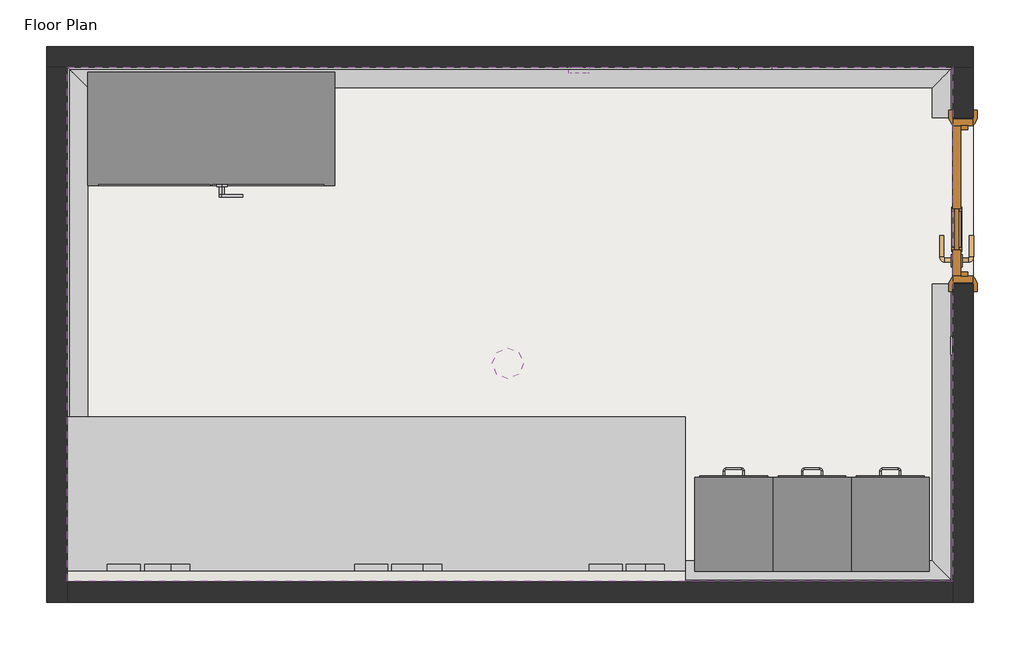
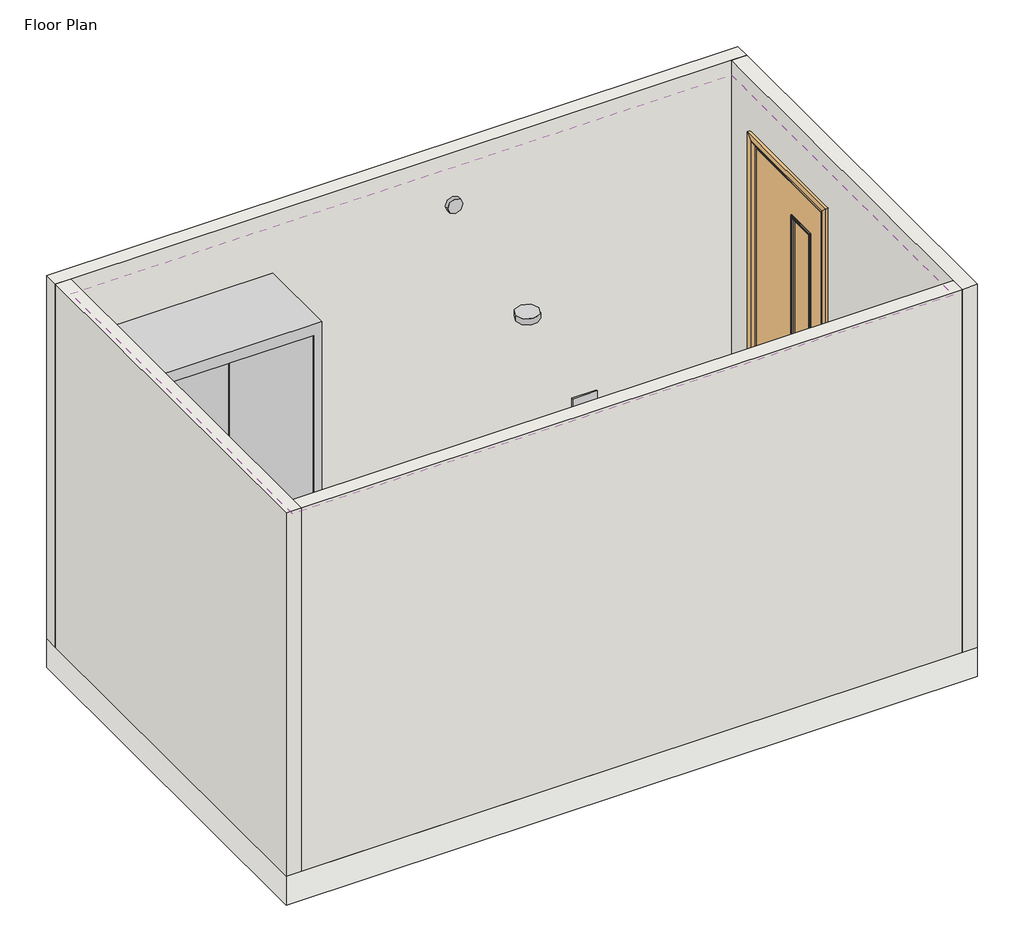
# One storey, incomplete: 17 proxies, 5 furniture elements, 5 walls, 1 covering, 1 door, 1 slab.
"""IFC4 building model written with IfcOpenShell, lengths in millimetres."""

from ifc_helpers import new_model, si_unit, frame, origin, origin_with_axes, place, context, project, spatial, polyline, circle_curve, ellipse_curve, outline, extrude, faceted_brep, transform, mapped, element, save
from ifc_brep_helpers import plane_surface, revolved_surface, advanced_brep
from components import bimhealth_electrical_data_point_v1_type_1_559430e2, bimhealth_electrical_double_socket_v1_type_1_f9b83866, bimhealth_electrical_double_socket_v1_type_1_95ecb0e8, bimhealth_electrical_light_switch_v1_type_1_b5e59f8a, bimhealth_electrical_smoke_detector_v1_bimhealth_electrical_fe9fcb6c, type_1_6de7a62d, doors_intsgl_2_810x2110mm_89a19a68, furniture_afa30520, furniture_380x457x1320mm_2699b43c, furniture_cabinet_storage_1200x550x2100mm_1155e696

model = new_model("IFC4")

# Units and contexts
model_context = context("Model", 3, world=origin())
ifc_project = project(units=[si_unit("LENGTHUNIT", "METRE", prefix="MILLI")], contexts=[model_context])

# Site, building, storey
site = spatial("IfcSite", under=ifc_project)
building = spatial("IfcBuilding", under=site)
storey = spatial("IfcBuildingStorey", under=building, Name="Floor Plan", Elevation=0.0)

# Proxies
placement = place(None, origin())
element("IfcBuildingElementProxy", 1, Name="Wall Sweeps", at=placement, inside=storey, context=model_context, shape_type="AdvancedBrep", body=[
    advanced_brep(
    [(5.0, 695.0, 0.0), (105.0, 795.0, 0.0), (105.0, 795.0, 10.0), (15.0, 705.0, 100.0), (5.0, 695.0, 100.0), (5.0, 3195.0, 0.0), (5.0, 3195.0, 100.0), (15.0, 3185.0, 100.0), (105.0, 3095.0, 10.0), (105.0, 3095.0, 0.0)],
    [
        (0, 1),
        (1, 2),
        (2, 3, ellipse_curve(frame((105.0, 795.0, 100.0), z_axis=(-0.707106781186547, 0.707106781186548, 0.0), x_axis=(0.707106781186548, 0.7071067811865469, 0.0)), 127.2792206, 90.0)),
        (3, 4),
        (4, 0),
        (5, 6),
        (6, 7),
        (7, 8, ellipse_curve(frame((105.0, 3095.0, 100.0), z_axis=(-0.7071067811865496, -0.7071067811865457, 0.0), x_axis=(-0.7071067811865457, 0.7071067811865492, 0.0)), 127.2792206, 90.0)),
        (8, 9),
        (9, 5),
        (4, 6),
        (5, 0),
        (3, 7),
        (2, 8),
        (1, 9),
    ],
    [
        plane_surface(frame((5.0, 695.0, 304.8), z_axis=(0.707106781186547, -0.707106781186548, 0.0), x_axis=(0.707106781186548, 0.707106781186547, 0.0))),
        plane_surface(frame((5.0, 3195.0, 304.8), z_axis=(0.7071067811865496, 0.7071067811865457, 0.0), x_axis=(0.7071067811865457, -0.7071067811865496, 0.0))),
        plane_surface(frame((5.0, 695.0, 100.0), z_axis=(-1.0, 0.0, 0.0), x_axis=(0.0, 1.0, 0.0))),
        plane_surface(frame((15.0, 705.0, 100.0), z_axis=(0.0, 0.0, 1.0), x_axis=(0.0, 1.0, 0.0))),
        revolved_surface(polyline([(195.0, 3185.0, 100.0), (195.0, 705.0, 100.0)]), (105.0, 695.0, 100.0), (0.0, 1.0, 0.0)),
        plane_surface(frame((105.0, 795.0, 0.0), z_axis=(1.0, 0.0, 0.0), x_axis=(0.0, 1.0, 0.0))),
        plane_surface(frame((5.0, 695.0, 0.0), z_axis=(0.0, 0.0, -1.0), x_axis=(0.0, 1.0, 0.0))),
    ],
    [
        (0, [[1, 2, 3, 4, 5]]),
        (1, [[6, 7, 8, 9, 10]]),
        (2, [[-5, 11, -6, 12]]),
        (3, [[-4, 13, -7, -11]]),
        (4, [[-3, 14, -8, -13]]),
        (5, [[-2, 15, -9, -14]]),
        (6, [[-1, -12, -10, -15]]),
    ],
),
])
element("IfcBuildingElementProxy", 2, Name="Wall Sweeps", at=placement, inside=storey, context=model_context, shape_type="AdvancedBrep", body=[
    advanced_brep(
    [(5.0, 3195.0, 0.0), (105.0, 3095.0, 0.0), (105.0, 3095.0, 10.0), (15.0, 3185.0, 100.0), (5.0, 3195.0, 100.0), (4305.0, 3195.0, 0.0), (4305.0, 3195.0, 100.0), (4295.0, 3185.0, 100.0), (4205.0, 3095.0, 10.0), (4205.0, 3095.0, 0.0)],
    [
        (0, 1),
        (1, 2),
        (2, 3, ellipse_curve(frame((105.0, 3095.0, 100.0), z_axis=(0.7071067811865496, 0.7071067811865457, 0.0), x_axis=(0.7071067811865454, -0.7071067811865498, 0.0)), 127.2792206, 90.0)),
        (3, 4),
        (4, 0),
        (5, 6),
        (6, 7),
        (7, 8, ellipse_curve(frame((4205.0, 3095.0, 100.0), z_axis=(-0.7071067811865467, 0.7071067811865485, 0.0), x_axis=(0.7071067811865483, 0.7071067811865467, 0.0)), 127.2792206, 90.0)),
        (8, 9),
        (9, 5),
        (4, 6),
        (5, 0),
        (3, 7),
        (2, 8),
        (1, 9),
    ],
    [
        plane_surface(frame((5.0, 3195.0, 304.8), z_axis=(-0.7071067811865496, -0.7071067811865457, 0.0), x_axis=(0.7071067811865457, -0.7071067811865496, 0.0))),
        plane_surface(frame((4305.0, 3195.0, 304.8), z_axis=(0.7071067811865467, -0.7071067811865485, 0.0), x_axis=(-0.7071067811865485, -0.7071067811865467, 0.0))),
        plane_surface(frame((5.0, 3195.0, 100.0), z_axis=(0.0, 1.0, 0.0), x_axis=(1.0, 0.0, 0.0))),
        plane_surface(frame((15.0, 3185.0, 100.0), z_axis=(0.0, 0.0, 1.0), x_axis=(1.0, 0.0, 0.0))),
        revolved_surface(polyline([(4295.0, 3005.0, 100.0), (15.0, 3005.0, 100.0)]), (5.0, 3095.0, 100.0), (1.0, 0.0, 0.0)),
        plane_surface(frame((105.0, 3095.0, 0.0), z_axis=(0.0, -1.0, 0.0), x_axis=(1.0, 0.0, 0.0))),
        plane_surface(frame((5.0, 3195.0, 0.0), z_axis=(0.0, 0.0, -1.0), x_axis=(1.0, 0.0, 0.0))),
    ],
    [
        (0, [[1, 2, 3, 4, 5]]),
        (1, [[6, 7, 8, 9, 10]]),
        (2, [[-5, 11, -6, 12]]),
        (3, [[-4, 13, -7, -11]]),
        (4, [[-3, 14, -8, -13]]),
        (5, [[-2, 15, -9, -14]]),
        (6, [[-1, -12, -10, -15]]),
    ],
),
])
element("IfcBuildingElementProxy", 3, Name="Wall Sweeps", at=placement, inside=storey, context=model_context, shape_type="AdvancedBrep", body=[
    advanced_brep(
    [(4305.0, 2140.0, 0.0), (4205.0, 2140.0, 0.0), (4205.0, 2140.0, 10.0), (4295.0, 2140.0, 100.0), (4305.0, 2140.0, 100.0), (4305.0, 695.0, 0.0), (4305.0, 695.0, 100.0), (4295.0, 705.0, 100.0), (4205.0, 795.0, 10.0), (4205.0, 795.0, 0.0)],
    [
        (0, 1),
        (1, 2),
        (2, 3, circle_curve(frame((4205.0, 2140.0, 100.0), z_axis=(0.0, -1.0, 0.0), x_axis=(-1.0, 0.0, 0.0)), 90.0)),
        (3, 4),
        (4, 0),
        (5, 6),
        (6, 7),
        (7, 8, ellipse_curve(frame((4205.0, 795.0, 100.0), z_axis=(0.7071067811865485, 0.7071067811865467, 0.0), x_axis=(0.7071067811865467, -0.7071067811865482, 0.0)), 127.2792206, 90.0)),
        (8, 9),
        (9, 5),
        (4, 6),
        (5, 0),
        (3, 7),
        (2, 8),
        (1, 9),
    ],
    [
        plane_surface(frame((4204.5012438, 2140.0, 0.0), z_axis=(0.0, 1.0, 0.0), x_axis=(0.0, 0.0, -1.0))),
        plane_surface(frame((4305.0, 695.0, 304.8), z_axis=(-0.7071067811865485, -0.7071067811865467, 0.0), x_axis=(-0.7071067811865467, 0.7071067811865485, 0.0))),
        plane_surface(frame((4305.0, 2140.0, 100.0), z_axis=(1.0, 0.0, 0.0), x_axis=(0.0, -1.0, 0.0))),
        plane_surface(frame((4295.0, 2140.0, 100.0), z_axis=(0.0, 0.0, 1.0), x_axis=(0.0, -1.0, 0.0))),
        revolved_surface(polyline([(4115.0, 705.0, 100.0), (4115.0, 2140.0, 100.0)]), (4205.0, 2140.0, 100.0), (0.0, -1.0, 0.0)),
        plane_surface(frame((4205.0, 2140.0, 0.0), z_axis=(-1.0, 0.0, 0.0), x_axis=(0.0, -1.0, 0.0))),
        plane_surface(frame((4305.0, 2140.0, 0.0), z_axis=(0.0, 0.0, -1.0), x_axis=(0.0, -1.0, 0.0))),
    ],
    [
        (0, [[1, 2, 3, 4, 5]]),
        (1, [[6, 7, 8, 9, 10]]),
        (2, [[-5, 11, -6, 12]]),
        (3, [[-4, 13, -7, -11]]),
        (4, [[-3, 14, -8, -13]]),
        (5, [[-2, 15, -9, -14]]),
        (6, [[-1, -12, -10, -15]]),
    ],
),
    advanced_brep(
    [(4305.0, 3195.0, 0.0), (4205.0, 3095.0, 0.0), (4205.0, 3095.0, 10.0), (4295.0, 3185.0, 100.0), (4305.0, 3195.0, 100.0), (4305.0, 2950.0, 0.0), (4305.0, 2950.0, 100.0), (4295.0, 2950.0, 100.0), (4205.0, 2950.0, 10.0), (4205.0, 2950.0, 0.0)],
    [
        (0, 1),
        (1, 2),
        (2, 3, ellipse_curve(frame((4205.0, 3095.0, 100.0), z_axis=(0.7071067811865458, -0.7071067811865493, 0.0), x_axis=(-0.7071067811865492, -0.7071067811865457, 0.0)), 127.2792206, 90.0)),
        (3, 4),
        (4, 0),
        (5, 6),
        (6, 7),
        (7, 8, circle_curve(frame((4205.0, 2950.0, 100.0), z_axis=(0.0, 1.0, 0.0), x_axis=(-1.0, 0.0, 0.0)), 90.0)),
        (8, 9),
        (9, 5),
        (4, 6),
        (5, 0),
        (3, 7),
        (2, 8),
        (1, 9),
    ],
    [
        plane_surface(frame((4305.0, 3195.0, 304.8), z_axis=(-0.7071067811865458, 0.7071067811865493, 0.0), x_axis=(-0.7071067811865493, -0.7071067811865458, 0.0))),
        plane_surface(frame((4204.5012438, 2950.0, 0.0), z_axis=(0.0, -1.0, 0.0), x_axis=(0.0, 0.0, -1.0))),
        plane_surface(frame((4305.0, 3195.0, 100.0), z_axis=(1.0, 0.0, 0.0), x_axis=(0.0, -1.0, 0.0))),
        plane_surface(frame((4295.0, 3185.0, 100.0), z_axis=(0.0, 0.0, 1.0), x_axis=(0.0, -1.0, 0.0))),
        revolved_surface(polyline([(4115.0, 2950.0, 100.0), (4115.0, 3185.0, 100.0)]), (4205.0, 3195.0, 100.0), (0.0, -1.0, 0.0)),
        plane_surface(frame((4205.0, 3095.0, 0.0), z_axis=(-1.0, 0.0, 0.0), x_axis=(0.0, -1.0, 0.0))),
        plane_surface(frame((4305.0, 3195.0, 0.0), z_axis=(0.0, 0.0, -1.0), x_axis=(0.0, -1.0, 0.0))),
    ],
    [
        (0, [[1, 2, 3, 4, 5]]),
        (1, [[6, 7, 8, 9, 10]]),
        (2, [[-5, 11, -6, 12]]),
        (3, [[-4, 13, -7, -11]]),
        (4, [[-3, 14, -8, -13]]),
        (5, [[-2, 15, -9, -14]]),
        (6, [[-1, -12, -10, -15]]),
    ],
),
])
element("IfcBuildingElementProxy", 4, Name="Wall Sweeps", at=placement, inside=storey, context=model_context, shape_type="AdvancedBrep", body=[
    advanced_brep(
    [(4305.0, 695.0, 0.0), (4205.0, 795.0, 0.0), (4205.0, 795.0, 10.0), (4295.0, 705.0, 100.0), (4305.0, 695.0, 100.0), (5.0, 695.0, 0.0), (5.0, 695.0, 100.0), (15.0, 705.0, 100.0), (105.0, 795.0, 10.0), (105.0, 795.0, 0.0)],
    [
        (0, 1),
        (1, 2),
        (2, 3, ellipse_curve(frame((4205.0, 795.0, 100.0), z_axis=(-0.7071067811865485, -0.7071067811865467, 0.0), x_axis=(-0.7071067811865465, 0.7071067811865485, 0.0)), 127.2792206, 90.0)),
        (3, 4),
        (4, 0),
        (5, 6),
        (6, 7),
        (7, 8, ellipse_curve(frame((105.0, 795.0, 100.0), z_axis=(0.707106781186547, -0.707106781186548, 0.0), x_axis=(-0.7071067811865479, -0.707106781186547, 0.0)), 127.2792206, 90.0)),
        (8, 9),
        (9, 5),
        (4, 6),
        (5, 0),
        (3, 7),
        (2, 8),
        (1, 9),
    ],
    [
        plane_surface(frame((4305.0, 695.0, 304.8), z_axis=(0.7071067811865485, 0.7071067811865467, 0.0), x_axis=(-0.7071067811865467, 0.7071067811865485, 0.0))),
        plane_surface(frame((5.0, 695.0, 304.8), z_axis=(-0.707106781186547, 0.707106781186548, 0.0), x_axis=(0.707106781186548, 0.707106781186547, 0.0))),
        plane_surface(frame((4305.0, 695.0, 100.0), z_axis=(0.0, -1.0, 0.0), x_axis=(-1.0, 0.0, 0.0))),
        plane_surface(frame((4295.0, 705.0, 100.0), z_axis=(0.0, 0.0, 1.0), x_axis=(-1.0, 0.0, 0.0))),
        revolved_surface(polyline([(15.0, 885.0, 100.0), (4295.0, 885.0, 100.0)]), (4305.0, 795.0, 100.0), (-1.0, 0.0, 0.0)),
        plane_surface(frame((4205.0, 795.0, 0.0), z_axis=(0.0, 1.0, 0.0), x_axis=(-1.0, 0.0, 0.0))),
        plane_surface(frame((4305.0, 695.0, 0.0), z_axis=(0.0, 0.0, -1.0), x_axis=(-1.0, 0.0, 0.0))),
    ],
    [
        (0, [[1, 2, 3, 4, 5]]),
        (1, [[6, 7, 8, 9, 10]]),
        (2, [[-5, 11, -6, 12]]),
        (3, [[-4, 13, -7, -11]]),
        (4, [[-3, 14, -8, -13]]),
        (5, [[-2, 15, -9, -14]]),
        (6, [[-1, -12, -10, -15]]),
    ],
),
])
bimhealth_electrical_data_point_v1_type_1_shape = bimhealth_electrical_data_point_v1_type_1_559430e2(model_context)
element("IfcBuildingElementProxy", 5, Name="BIMHealth-Electrical-Data_Point-v1 : Type 1", ObjectType="BIMHealth-Electrical-Data_Point-v1 : Type 1", at=placement, inside=storey, context=model_context, shape_type="MappedRepresentation", body=[
    mapped(bimhealth_electrical_data_point_v1_type_1_shape, transform((385.0, 720.0, 0.0), x_axis=(1.0, 0.0, 0.0), y_axis=(0.0, 1.0, 0.0), z_axis=(0.0, 0.0, 1.0))),
])
element("IfcBuildingElementProxy", 6, Name="BIMHealth-Electrical-Data_Point-v1 : Type 1", ObjectType="BIMHealth-Electrical-Data_Point-v1 : Type 1", at=placement, inside=storey, context=model_context, shape_type="MappedRepresentation", body=[
    mapped(bimhealth_electrical_data_point_v1_type_1_shape, transform((1610.0, 720.0, 0.0), x_axis=(1.0, 0.0, 0.0), y_axis=(0.0, 1.0, 0.0), z_axis=(0.0, 0.0, 1.0))),
])
element("IfcBuildingElementProxy", 7, Name="BIMHealth-Electrical-Data_Point-v1 : Type 1", ObjectType="BIMHealth-Electrical-Data_Point-v1 : Type 1", at=placement, inside=storey, context=model_context, shape_type="MappedRepresentation", body=[
    mapped(bimhealth_electrical_data_point_v1_type_1_shape, transform((2690.0, 720.0, 0.0), x_axis=(1.0, 0.0, 0.0), y_axis=(0.0, 1.0, 0.0), z_axis=(0.0, 0.0, 1.0))),
])
bimhealth_electrical_double_socket_v1_type_1_shape = bimhealth_electrical_double_socket_v1_type_1_f9b83866(model_context)
element("IfcBuildingElementProxy", 8, Name="BIMHealth-Electrical-Double_Socket-v1 : Type 1", ObjectType="BIMHealth-Electrical-Double_Socket-v1 : Type 1", at=placement, inside=storey, context=model_context, shape_type="MappedRepresentation", body=[
    mapped(bimhealth_electrical_double_socket_v1_type_1_shape, transform((3550.0, 3245.0, 0.0), x_axis=(-1.0, 0.0, 0.0), y_axis=(0.0, -1.0, 0.0), z_axis=(0.0, 0.0, 1.0))),
])
bimhealth_electrical_double_socket_v1_type_1_2_shape = bimhealth_electrical_double_socket_v1_type_1_95ecb0e8(model_context)
element("IfcBuildingElementProxy", 9, Name="BIMHealth-Electrical-Double_Socket-v1 : Type 1", ObjectType="BIMHealth-Electrical-Double_Socket-v1 : Type 1", at=placement, inside=storey, context=model_context, shape_type="MappedRepresentation", body=[
    mapped(bimhealth_electrical_double_socket_v1_type_1_2_shape, transform((665.8084521, 720.0, 285.0), x_axis=(-1.0, 0.0, 0.0), y_axis=(0.0, -1.0, 0.0), z_axis=(0.0, 0.0, 1.0))),
])
element("IfcBuildingElementProxy", 10, Name="BIMHealth-Electrical-Double_Socket-v1 : Type 1", ObjectType="BIMHealth-Electrical-Double_Socket-v1 : Type 1", at=placement, inside=storey, context=model_context, shape_type="MappedRepresentation", body=[
    mapped(bimhealth_electrical_double_socket_v1_type_1_2_shape, transform((485.8084521, 720.0, 285.0), x_axis=(-1.0, 0.0, 0.0), y_axis=(0.0, -1.0, 0.0), z_axis=(0.0, 0.0, 1.0))),
])
element("IfcBuildingElementProxy", 11, Name="BIMHealth-Electrical-Double_Socket-v1 : Type 1", ObjectType="BIMHealth-Electrical-Double_Socket-v1 : Type 1", at=placement, inside=storey, context=model_context, shape_type="MappedRepresentation", body=[
    mapped(bimhealth_electrical_double_socket_v1_type_1_2_shape, transform((1865.8084521, 720.0, 285.0), x_axis=(-1.0, 0.0, 0.0), y_axis=(0.0, -1.0, 0.0), z_axis=(0.0, 0.0, 1.0))),
])
element("IfcBuildingElementProxy", 12, Name="BIMHealth-Electrical-Double_Socket-v1 : Type 1", ObjectType="BIMHealth-Electrical-Double_Socket-v1 : Type 1", at=placement, inside=storey, context=model_context, shape_type="MappedRepresentation", body=[
    mapped(bimhealth_electrical_double_socket_v1_type_1_2_shape, transform((1685.8084521, 720.0, 285.0), x_axis=(-1.0, 0.0, 0.0), y_axis=(0.0, -1.0, 0.0), z_axis=(0.0, 0.0, 1.0))),
])
element("IfcBuildingElementProxy", 13, Name="BIMHealth-Electrical-Double_Socket-v1 : Type 1", ObjectType="BIMHealth-Electrical-Double_Socket-v1 : Type 1", at=placement, inside=storey, context=model_context, shape_type="MappedRepresentation", body=[
    mapped(bimhealth_electrical_double_socket_v1_type_1_2_shape, transform((3005.8084521, 720.0, 285.0), x_axis=(-1.0, 0.0, 0.0), y_axis=(0.0, -1.0, 0.0), z_axis=(0.0, 0.0, 1.0))),
])
element("IfcBuildingElementProxy", 14, Name="BIMHealth-Electrical-Double_Socket-v1 : Type 1", ObjectType="BIMHealth-Electrical-Double_Socket-v1 : Type 1", at=placement, inside=storey, context=model_context, shape_type="MappedRepresentation", body=[
    mapped(bimhealth_electrical_double_socket_v1_type_1_2_shape, transform((2825.8084521, 720.0, 285.0), x_axis=(-1.0, 0.0, 0.0), y_axis=(0.0, -1.0, 0.0), z_axis=(0.0, 0.0, 1.0))),
])
bimhealth_electrical_light_switch_v1_type_1_shape = bimhealth_electrical_light_switch_v1_type_1_b5e59f8a(model_context)
element("IfcBuildingElementProxy", 15, Name="BIMHealth-Electrical-Light_Switch-v1 : Type 1", ObjectType="BIMHealth-Electrical-Light_Switch-v1 : Type 1", at=placement, inside=storey, context=model_context, shape_type="MappedRepresentation", body=[
    mapped(bimhealth_electrical_light_switch_v1_type_1_shape, transform((4355.0, 1670.0, -60.0), x_axis=(0.0, 1.0, 0.0), y_axis=(-1.0, 0.0, 0.0), z_axis=(0.0, 0.0, 1.0))),
])
bimhealth_electrical_smoke_detector_v1_bimhealth_electrical_shape = bimhealth_electrical_smoke_detector_v1_bimhealth_electrical_fe9fcb6c(model_context)
element("IfcBuildingElementProxy", 16, Name="BIMHealth-Electrical-Smoke_Detector-v1 : BIMHealth-Electrical-Smoke_Detector-v1", ObjectType="BIMHealth-Electrical-Smoke_Detector-v1 : BIMHealth-Electrical-Smoke_Detector-v1", at=placement, inside=storey, context=model_context, shape_type="MappedRepresentation", body=[
    mapped(bimhealth_electrical_smoke_detector_v1_bimhealth_electrical_shape, transform((2145.0, 1755.0, -38.4), x_axis=(1.0, 0.0, 0.0), y_axis=(0.0, 1.0, 0.0), z_axis=(0.0, 0.0, 1.0))),
])
type_1_shape = type_1_6de7a62d(model_context)
element("IfcBuildingElementProxy", 17, Name="BIMHealth-Electrical-Alarm_Sounder-v1 : Type 1", ObjectType="BIMHealth-Electrical-Alarm_Sounder-v1 : Type 1", at=placement, inside=storey, context=model_context, shape_type="MappedRepresentation", body=[
    mapped(type_1_shape, transform((2665.0, 3245.0, 0.0), x_axis=(-1.0, 0.0, 0.0), y_axis=(0.0, -1.0, 0.0), z_axis=(0.0, 0.0, 1.0))),
])

# Covering
element("IfcCovering", 18, ObjectType="BIMHealth - Generic Ceiling", at=placement, inside=storey, context=model_context, shape_type="SweptSolid", body=[
    extrude(outline(polyline([(4305.0, 3195.0), (4305.0, 695.0), (5.0, 695.0), (5.0, 3195.0), (4305.0, 3195.0)])), frame((0.0, 0.0, 2400.0), z_axis=(0.0, 0.0, 1.0), x_axis=(1.0, 0.0, 0.0)), (0.0, 0.0, 1.0), 52.0),
])

# Door
doors_intsgl_2_810x2110mm_shape = doors_intsgl_2_810x2110mm_89a19a68(model_context)
element("IfcDoor", 19, ObjectType="Doors_IntSgl_2 : 810x2110mm", at=placement, inside=storey, context=model_context, shape_type="MappedRepresentation", body=[
    mapped(doors_intsgl_2_810x2110mm_shape, transform((4355.0, 2545.0, 0.0), x_axis=(0.0, 1.0, 0.0), y_axis=(-1.0, 0.0, 0.0), z_axis=(0.0, 0.0, 1.0))),
])

# Furniture
furniture_shape = furniture_afa30520(model_context)
element("IfcFurniture", 20, ObjectType="Desk Benching : Desk Benching", at=placement, inside=storey, context=model_context, shape_type="MappedRepresentation", body=[
    mapped(furniture_shape, transform((0.0, 0.0, 0.0), x_axis=(1.0, 0.0, 0.0), y_axis=(0.0, 1.0, 0.0), z_axis=(0.0, 0.0, 1.0))),
])
furniture_380x457x1320mm_shape = furniture_380x457x1320mm_2699b43c(model_context)
element("IfcFurniture", 21, ObjectType="Furniture_Filing_Cabinetx4 : 380x457x1320mm", at=placement, inside=storey, context=model_context, shape_type="MappedRepresentation", body=[
    mapped(furniture_380x457x1320mm_shape, transform((3114.058943, 831.3656999, 0.0), x_axis=(-1.0, 0.0, 0.0), y_axis=(0.0, -1.0, 0.0), z_axis=(0.0, 0.0, 1.0))),
])
element("IfcFurniture", 22, ObjectType="Furniture_Filing_Cabinetx4 : 380x457x1320mm", at=placement, inside=storey, context=model_context, shape_type="MappedRepresentation", body=[
    mapped(furniture_380x457x1320mm_shape, transform((3494.058943, 831.3656999, 0.0), x_axis=(-1.0, 0.0, 0.0), y_axis=(0.0, -1.0, 0.0), z_axis=(0.0, 0.0, 1.0))),
])
element("IfcFurniture", 23, ObjectType="Furniture_Filing_Cabinetx4 : 380x457x1320mm", at=placement, inside=storey, context=model_context, shape_type="MappedRepresentation", body=[
    mapped(furniture_380x457x1320mm_shape, transform((3874.058943, 831.3656999, 0.0), x_axis=(-1.0, 0.0, 0.0), y_axis=(0.0, -1.0, 0.0), z_axis=(0.0, 0.0, 1.0))),
])
furniture_cabinet_storage_1200x550x2100mm_shape = furniture_cabinet_storage_1200x550x2100mm_1155e696(model_context)
element("IfcFurniture", 24, ObjectType="Furniture_Cabinet_Storage : 1200x550x2100mm", at=placement, inside=storey, context=model_context, shape_type="MappedRepresentation", body=[
    mapped(furniture_cabinet_storage_1200x550x2100mm_shape, transform((705.0, 2895.0, 0.0), x_axis=(1.0, 0.0, 0.0), y_axis=(0.0, 1.0, 0.0), z_axis=(0.0, 0.0, 1.0))),
])

# Slab
element("IfcSlab", 25, ObjectType="BIMHealth - Generic Floor", at=placement, inside=storey, context=model_context, shape_type="SweptSolid", body=[
    extrude(outline(polyline([(4405.0, 3295.0), (4405.0, 595.0), (-95.0, 595.0), (-95.0, 3295.0), (4405.0, 3295.0)])), frame((0.0, 0.0, -200.0), z_axis=(0.0, 0.0, 1.0), x_axis=(1.0, 0.0, 0.0)), (0.0, 0.0, 1.0), 200.0),
])

# Walls
element("IfcWall", 26, ObjectType="BIMHealth - Generic Wall - Trunking", at=placement, inside=storey, context=model_context, shape_type="SweptSolid", body=[
    extrude(outline(polyline([(3005.0, 695.0), (5.0, 695.0), (5.0, 745.0), (3005.0, 745.0), (3005.0, 695.0)])), frame((0.0, 0.0, 700.0), z_axis=(0.0, 0.0, 1.0), x_axis=(1.0, 0.0, 0.0)), (0.0, 0.0, 1.0), 150.0),
])
element("IfcWall", 27, ObjectType="BIMHealth - Generic Wall", at=placement, inside=storey, context=model_context, shape_type="Brep", body=[
    faceted_brep([(5.0, 595.0, 0.0), (5.0, 695.0, 0.0), (5.0, 3195.0, 0.0), (5.0, 3195.0, 2500.0), (5.0, 695.0, 2500.0), (5.0, 595.0, 2500.0), (-95.0, 595.0, 0.0), (-95.0, 595.0, 2500.0), (-95.0, 3195.0, 2500.0), (-95.0, 3195.0, 0.0)], [[[0, 1, 2, 3, 4, 5]], [[6, 7, 8, 9]], [[2, 1, 0, 6, 9]], [[5, 4, 3, 8, 7]], [[0, 5, 7, 6]], [[3, 2, 9, 8]]]),
])
element("IfcWall", 28, ObjectType="BIMHealth - Generic Wall", at=placement, inside=storey, context=model_context, shape_type="Brep", body=[
    faceted_brep([(-95.0, 3195.0, 0.0), (5.0, 3195.0, 0.0), (4305.0, 3195.0, 0.0), (4405.0, 3195.0, 0.0), (4405.0, 3195.0, 2500.0), (4305.0, 3195.0, 2500.0), (5.0, 3195.0, 2500.0), (-95.0, 3195.0, 2500.0), (-95.0, 3295.0, 0.0), (-95.0, 3295.0, 2500.0), (4405.0, 3295.0, 2500.0), (4405.0, 3295.0, 0.0)], [[[0, 1, 2, 3, 4, 5, 6, 7]], [[8, 9, 10, 11]], [[3, 2, 1, 0, 8, 11]], [[7, 6, 5, 4, 10, 9]], [[4, 3, 11, 10]], [[0, 7, 9, 8]]]),
])
element("IfcWall", 29, ObjectType="BIMHealth - Generic Wall", at=placement, inside=storey, context=model_context, shape_type="Brep", body=[
    faceted_brep([(4305.0, 595.0, 2500.0), (4305.0, 695.0, 2500.0), (4305.0, 3195.0, 2500.0), (4305.0, 3195.0, 0.0), (4305.0, 2950.0, 0.0), (4305.0, 2950.0, 100.0), (4305.0, 2950.0, 2110.0), (4305.0, 2140.0, 2110.0), (4305.0, 2140.0, 100.0), (4305.0, 2140.0, 0.0), (4305.0, 695.0, 0.0), (4305.0, 595.0, 0.0), (4405.0, 3195.0, 2500.0), (4405.0, 595.0, 2500.0), (4405.0, 595.0, 0.0), (4405.0, 2140.0, 0.0), (4405.0, 2140.0, 2110.0), (4405.0, 2950.0, 2110.0), (4405.0, 2950.0, 0.0), (4405.0, 3195.0, 0.0)], [[[0, 1, 2, 3, 4, 5, 6, 7, 8, 9, 10, 11]], [[12, 13, 14, 15, 16, 17, 18, 19]], [[3, 19, 18, 4]], [[14, 11, 10, 9, 15]], [[2, 1, 0, 13, 12]], [[3, 2, 12, 19]], [[0, 11, 14, 13]], [[17, 6, 5, 4, 18]], [[6, 17, 16, 7]], [[7, 16, 15, 9, 8]]]),
])
element("IfcWall", 30, ObjectType="BIMHealth - Generic Wall", at=placement, inside=storey, context=model_context, shape_type="SweptSolid", body=[
    extrude(outline(polyline([(5.0, 695.0), (4305.0, 695.0), (4305.0, 595.0), (5.0, 595.0), (5.0, 695.0)])), origin_with_axes(), (0.0, 0.0, 1.0), 2500.0),
])

save(model, "model.ifc")
